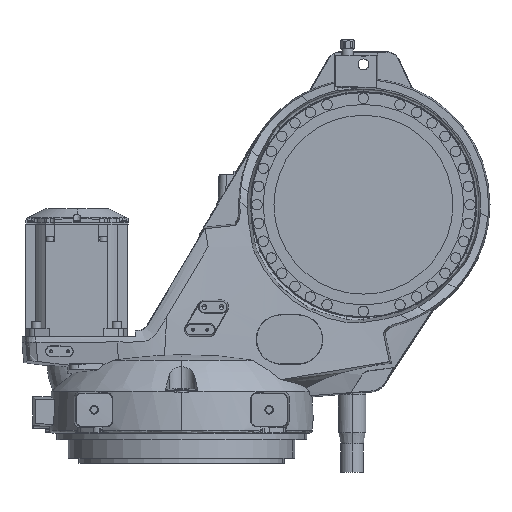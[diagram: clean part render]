
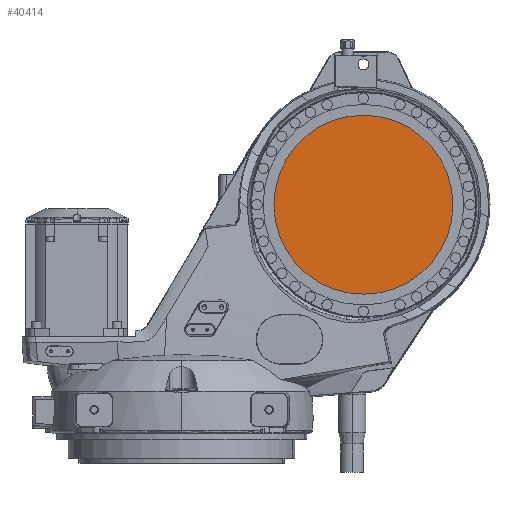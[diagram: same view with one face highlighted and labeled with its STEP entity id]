
A CAD part, front view. The second image highlights one B-rep face of the part: STEP entity #40414.
In plain terms, the highlighted planar face has unit normal (0, -1, 0).
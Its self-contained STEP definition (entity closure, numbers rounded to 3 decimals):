
#154 = ORIENTED_EDGE ( 'NONE', *, *, #3065, .F. ) ;
#3065 = EDGE_CURVE ( 'NONE', #45177, #25890, #50733, .T. ) ;
#6220 = AXIS2_PLACEMENT_3D ( 'NONE', #18480, #38748, #33767 ) ;
#6692 = EDGE_LOOP ( 'NONE', ( #55726, #154 ) ) ;
#18480 = CARTESIAN_POINT ( 'NONE',  ( 320., -113., 670. ) ) ;
#19917 = CARTESIAN_POINT ( 'NONE',  ( 347.35, -113., 514.893 ) ) ;
#22407 = CARTESIAN_POINT ( 'NONE',  ( 292.65, -113., 825.107 ) ) ;
#25511 = DIRECTION ( 'NONE',  ( 0., 1., 0. ) ) ;
#25890 = VERTEX_POINT ( 'NONE', #19917 ) ;
#29516 = FACE_OUTER_BOUND ( 'NONE', #6692, .T. ) ;
#33156 = EDGE_CURVE ( 'NONE', #25890, #45177, #46587, .T. ) ;
#33767 = DIRECTION ( 'NONE',  ( 0., 0., -1. ) ) ;
#38748 = DIRECTION ( 'NONE',  ( 0., 1., 0. ) ) ;
#40228 = DIRECTION ( 'NONE',  ( 0., 1., 0. ) ) ;
#40414 = ADVANCED_FACE ( 'NONE', ( #29516 ), #60348, .F. ) ;
#41756 = DIRECTION ( 'NONE',  ( 0.174, 0., -0.985 ) ) ;
#45177 = VERTEX_POINT ( 'NONE', #22407 ) ;
#45202 = DIRECTION ( 'NONE',  ( 0., 0., -1. ) ) ;
#46587 = CIRCLE ( 'NONE', #61393, 157.5 ) ;
#50733 = CIRCLE ( 'NONE', #6220, 157.5 ) ;
#54610 = AXIS2_PLACEMENT_3D ( 'NONE', #56645, #25511, #41756 ) ;
#55726 = ORIENTED_EDGE ( 'NONE', *, *, #33156, .F. ) ;
#55784 = CARTESIAN_POINT ( 'NONE',  ( 320., -113., 670. ) ) ;
#56645 = CARTESIAN_POINT ( 'NONE',  ( 304.271, -113., 759.201 ) ) ;
#60348 = PLANE ( 'NONE',  #54610 ) ;
#61393 = AXIS2_PLACEMENT_3D ( 'NONE', #55784, #40228, #45202 ) ;
